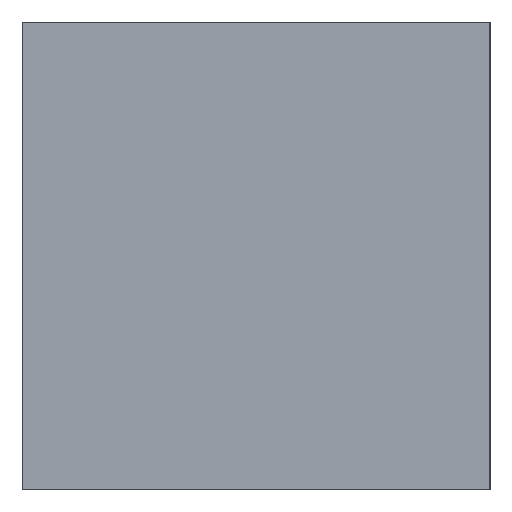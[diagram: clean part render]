
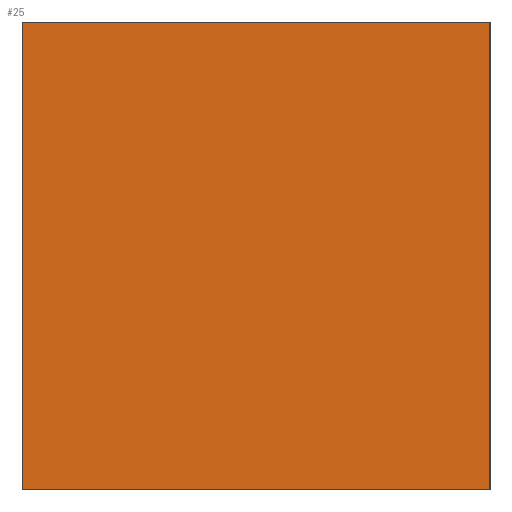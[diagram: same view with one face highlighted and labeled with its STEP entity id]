
A CAD part, left-side view. The second image highlights one B-rep face of the part: STEP entity #25.
In plain terms, the highlighted planar face has unit normal (-1, 0, 0).
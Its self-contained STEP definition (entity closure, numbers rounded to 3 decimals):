
#25=ADVANCED_FACE('',(#31),#183,.T.);
#31=FACE_OUTER_BOUND('',#37,.T.);
#37=EDGE_LOOP('',(#46,#47,#48,#49));
#46=ORIENTED_EDGE('',*,*,#126,.F.);
#47=ORIENTED_EDGE('',*,*,#130,.T.);
#48=ORIENTED_EDGE('',*,*,#131,.T.);
#49=ORIENTED_EDGE('',*,*,#132,.T.);
#66=PCURVE('',#182,#90);
#70=PCURVE('',#183,#94);
#71=PCURVE('',#183,#95);
#72=PCURVE('',#183,#96);
#73=PCURVE('',#183,#97);
#77=PCURVE('',#184,#101);
#79=PCURVE('',#185,#103);
#88=PCURVE('',#187,#112);
#90=DEFINITIONAL_REPRESENTATION('',(#139),#313);
#94=DEFINITIONAL_REPRESENTATION('',(#146),#313);
#95=DEFINITIONAL_REPRESENTATION('',(#148),#313);
#96=DEFINITIONAL_REPRESENTATION('',(#150),#313);
#97=DEFINITIONAL_REPRESENTATION('',(#152),#313);
#101=DEFINITIONAL_REPRESENTATION('',(#159),#313);
#103=DEFINITIONAL_REPRESENTATION('',(#161),#313);
#112=DEFINITIONAL_REPRESENTATION('',(#172),#313);
#114=SURFACE_CURVE('',#138,(#66,#70),.PCURVE_S1.);
#118=SURFACE_CURVE('',#147,(#71,#88),.PCURVE_S1.);
#119=SURFACE_CURVE('',#149,(#72,#77),.PCURVE_S1.);
#120=SURFACE_CURVE('',#151,(#73,#79),.PCURVE_S1.);
#126=EDGE_CURVE('',#174,#176,#114,.T.);
#130=EDGE_CURVE('',#174,#175,#118,.T.);
#131=EDGE_CURVE('',#175,#179,#119,.T.);
#132=EDGE_CURVE('',#179,#176,#120,.T.);
#138=B_SPLINE_CURVE_WITH_KNOTS('',1,(#240,#241),.UNSPECIFIED.,.F.,.F.,(2,
2),(-3280.,-3240.),.UNSPECIFIED.);
#139=B_SPLINE_CURVE_WITH_KNOTS('',1,(#242,#243),.UNSPECIFIED.,.F.,.F.,(2,
2),(-3280.,-3240.),.UNSPECIFIED.);
#146=B_SPLINE_CURVE_WITH_KNOTS('',1,(#256,#257),.UNSPECIFIED.,.F.,.F.,(2,
2),(-3280.,-3240.),.UNSPECIFIED.);
#147=B_SPLINE_CURVE_WITH_KNOTS('',1,(#258,#259),.UNSPECIFIED.,.F.,.F.,(2,
2),(0.,80.),.UNSPECIFIED.);
#148=B_SPLINE_CURVE_WITH_KNOTS('',1,(#260,#261),.UNSPECIFIED.,.F.,.F.,(2,
2),(0.,80.),.UNSPECIFIED.);
#149=B_SPLINE_CURVE_WITH_KNOTS('',1,(#262,#263),.UNSPECIFIED.,.F.,.F.,(2,
2),(-3280.,-3240.),.UNSPECIFIED.);
#150=B_SPLINE_CURVE_WITH_KNOTS('',1,(#264,#265),.UNSPECIFIED.,.F.,.F.,(2,
2),(-3280.,-3240.),.UNSPECIFIED.);
#151=B_SPLINE_CURVE_WITH_KNOTS('',1,(#266,#267),.UNSPECIFIED.,.F.,.F.,(2,
2),(-80.,0.),.UNSPECIFIED.);
#152=B_SPLINE_CURVE_WITH_KNOTS('',1,(#268,#269),.UNSPECIFIED.,.F.,.F.,(2,
2),(-80.,0.),.UNSPECIFIED.);
#159=B_SPLINE_CURVE_WITH_KNOTS('',1,(#282,#283),.UNSPECIFIED.,.F.,.F.,(2,
2),(-3280.,-3240.),.UNSPECIFIED.);
#161=B_SPLINE_CURVE_WITH_KNOTS('',1,(#286,#287),.UNSPECIFIED.,.F.,.F.,(2,
2),(-80.,0.),.UNSPECIFIED.);
#172=B_SPLINE_CURVE_WITH_KNOTS('',1,(#308,#309),.UNSPECIFIED.,.F.,.F.,(2,
2),(0.,80.),.UNSPECIFIED.);
#174=VERTEX_POINT('',#232);
#175=VERTEX_POINT('',#233);
#176=VERTEX_POINT('',#234);
#179=VERTEX_POINT('',#237);
#182=PLANE('',#208);
#183=PLANE('',#209);
#184=PLANE('',#210);
#185=PLANE('',#211);
#187=PLANE('',#213);
#208=AXIS2_PLACEMENT_3D('',#226,#217,$);
#209=AXIS2_PLACEMENT_3D('',#227,#218,$);
#210=AXIS2_PLACEMENT_3D('',#228,#219,$);
#211=AXIS2_PLACEMENT_3D('',#229,#220,$);
#213=AXIS2_PLACEMENT_3D('',#231,#222,$);
#217=DIRECTION('',(0.,1.,0.));
#218=DIRECTION('',(-1.,0.,0.));
#219=DIRECTION('',(0.,-1.,0.));
#220=DIRECTION('',(0.,0.,1.));
#222=DIRECTION('',(0.,0.,-1.));
#226=CARTESIAN_POINT('',(-810.,355.,140.));
#227=CARTESIAN_POINT('',(-810.,355.,140.));
#228=CARTESIAN_POINT('',(-810.,315.,140.));
#229=CARTESIAN_POINT('',(-810.,355.,180.));
#231=CARTESIAN_POINT('',(810.,355.,140.));
#232=CARTESIAN_POINT('',(-810.,355.,140.));
#233=CARTESIAN_POINT('',(-810.,315.,140.));
#234=CARTESIAN_POINT('',(-810.,355.,180.));
#237=CARTESIAN_POINT('',(-810.,315.,180.));
#240=CARTESIAN_POINT('',(-810.,355.,140.));
#241=CARTESIAN_POINT('',(-810.,355.,180.));
#242=CARTESIAN_POINT('',(0.,0.));
#243=CARTESIAN_POINT('',(40.,0.));
#256=CARTESIAN_POINT('',(0.,-3280.));
#257=CARTESIAN_POINT('',(0.,-3240.));
#258=CARTESIAN_POINT('',(-810.,355.,140.));
#259=CARTESIAN_POINT('',(-810.,315.,140.));
#260=CARTESIAN_POINT('',(0.,-3280.));
#261=CARTESIAN_POINT('',(80.,-3280.));
#262=CARTESIAN_POINT('',(-810.,315.,140.));
#263=CARTESIAN_POINT('',(-810.,315.,180.));
#264=CARTESIAN_POINT('',(80.,-3280.));
#265=CARTESIAN_POINT('',(80.,-3240.));
#266=CARTESIAN_POINT('',(-810.,315.,180.));
#267=CARTESIAN_POINT('',(-810.,355.,180.));
#268=CARTESIAN_POINT('',(80.,-3240.));
#269=CARTESIAN_POINT('',(0.,-3240.));
#282=CARTESIAN_POINT('',(0.,0.));
#283=CARTESIAN_POINT('',(0.,40.));
#286=CARTESIAN_POINT('',(80.,-3240.));
#287=CARTESIAN_POINT('',(0.,-3240.));
#308=CARTESIAN_POINT('',(0.,0.));
#309=CARTESIAN_POINT('',(80.,0.));
#313=(
GEOMETRIC_REPRESENTATION_CONTEXT(2)
PARAMETRIC_REPRESENTATION_CONTEXT()
REPRESENTATION_CONTEXT('pspace','')
);
